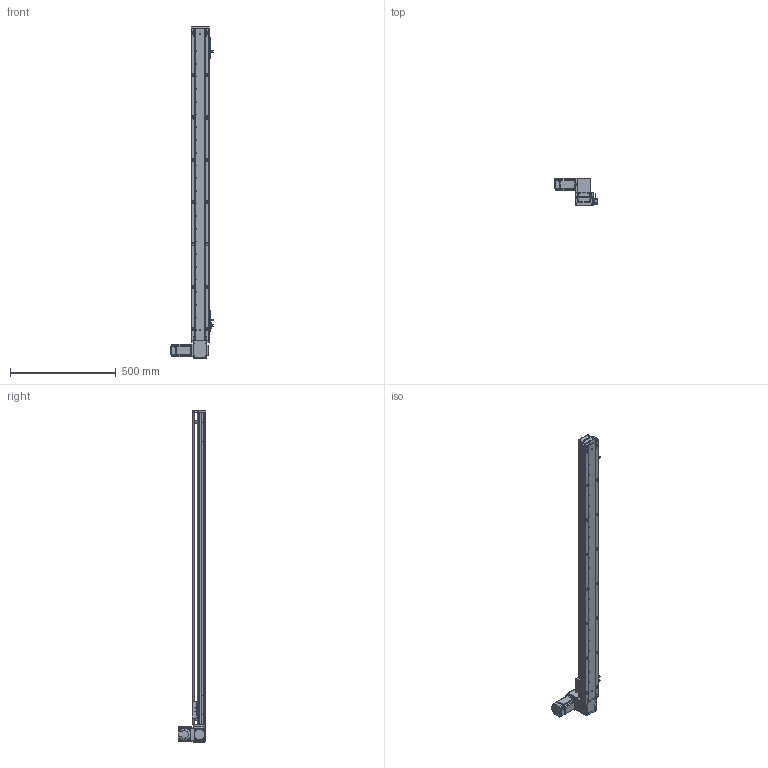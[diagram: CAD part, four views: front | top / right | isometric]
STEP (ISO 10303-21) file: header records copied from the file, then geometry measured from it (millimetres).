
FILE_DESCRIPTION (( 'STEP AP203' ), '1' );
FILE_NAME ('RY80-T-300-UL.SLDASM_1300.step', '2021-03-01T02:17:40', ( '盈信电脑' ), ( '东莞市道滘镇水果街19号' ), 'SwSTEP 2.0', 'SolidWorks 2012', '' );
FILE_SCHEMA (( 'CONFIG_CONTROL_DESIGN' ));
Length unit declared in the file: millimetre
Products named in the file (19): RY80-T-300-UL倰第奻裔啣_1300; 672嫖萇羲壽假蚾釱; RY80-T綴裔啣; RY80-T肮祭謫臏賑輸; RY80-T-300-UL倰第菁釱_1300; RY80-T-翋肮祭謫釱; RY80俋离覜茼え; RY80-T肮祭湍揤輸1; 覜茼ん672; RY80-T肮祭謫奻殏俋欶; RY80-T-上下折同步轮盖板; RY80-T-300-UL.SLDASM_1300; RY80-T-M4蹟翐2; RY80-T粣創揤踡輸; RY80-T翋肮祭謫裔啣; 1; 滅袉蝶18-10; RY80-T萇儂假蚾啣; RY80-T肮祭湍揤輸2
Assembly tree (24 placements, depth 2):
  RY80-T-300-UL.SLDASM_1300
    RY80-T-300-UL倰第菁釱_1300
    RY80-T肮祭謫臏賑輸
    RY80-T-300-UL倰第奻裔啣_1300
    RY80-T綴裔啣
    672嫖萇羲壽假蚾釱  x2
    覜茼ん672  x3
    RY80俋离覜茼え
    RY80-T-翋肮祭謫釱
    RY80-T肮祭湍揤輸1
    RY80-T肮祭湍揤輸2
    RY80-T萇儂假蚾啣
    RY80-T粣創揤踡輸  x2
    滅袉蝶18-10  x2
    RY80-T翋肮祭謫裔啣
    1
    RY80-T肮祭謫奻殏俋欶
    RY80-T-M4蹟翐2  x2
    RY80-T-上下折同步轮盖板
Bounding box: 198.7 x 130.5 x 1570 mm (x, y, z)
Volume: 2583270.9 mm3; surface area: 1090980.3 mm2
Topology: 24 solids, 24 shells, 2556 faces, 7043 edges, 4575 vertices
Faces by surface type: plane 1356, cylinder 995, cone 149, bspline 56
Entity records: 80197 total; most frequent: CARTESIAN_POINT 19564, ORIENTED_EDGE 12470, DIRECTION 11706, EDGE_CURVE 6235, VERTEX_POINT 4096, AXIS2_PLACEMENT_3D 3950, VECTOR 3806, LINE 3806
